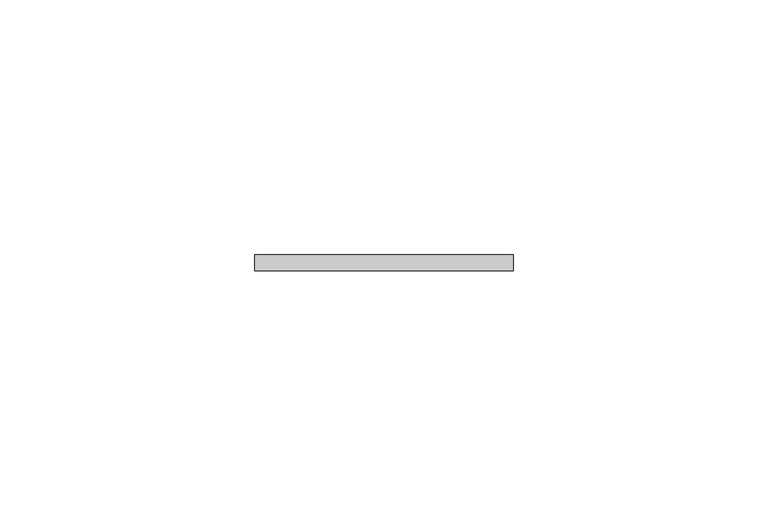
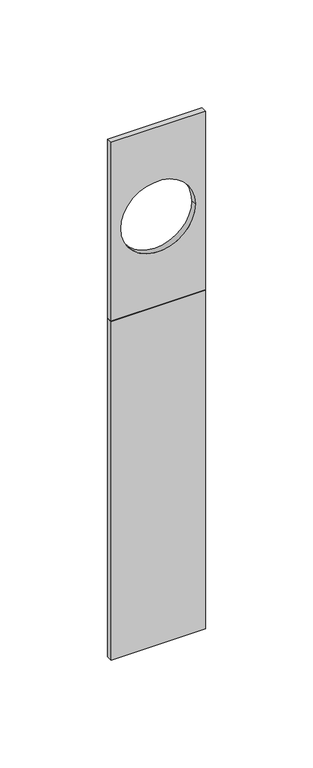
"""IFC4 building model written with IfcOpenShell, lengths in millimetres: proxy geometry, Accessory-Wiremold-Receptacle_Cover : 30TP-J."""

from ifc_helpers import new_model, si_unit, point, frame, frame_2d, origin, place, context, project, spatial, polyline, circle_curve, trimmed, segment, composite_curve, outline, extrude, source, transform, mapped, element, save


def electrical_fixtures_fe14b728(model_context):
    return source(origin(), model_context, "Body", "SweptSolid", [
        extrude(outline(polyline([(25.4, -1.5875), (-25.4, -1.5875), (-25.4, 1.5875), (25.4, 1.5875), (25.4, -1.5875)])), frame((0.0, 0.0, 25.4), z_axis=(0.0, 0.0, 1.0), x_axis=(1.0, 0.0, 0.0)), (0.0, 0.0, 1.0), 192.0875),
        extrude(outline(polyline([(319.0875, 25.4), (319.0875, -25.4), (217.4875, -25.4), (217.4875, 25.4), (319.0875, 25.4)]), holes=[composite_curve([segment(trimmed(circle_curve(frame_2d((268.2875, 0.0)), 20.0), [point((268.2875, -20.0))], [point((268.2875, 20.0))], True, "CARTESIAN"), True, "CONTINUOUS"), segment(trimmed(circle_curve(frame_2d((268.2875, 0.0)), 20.0), [point((268.2875, 20.0))], [point((268.2875, -20.0))], True, "CARTESIAN"), True, "CONTINUOUS")], self_intersect=False)]), frame((0.0, -1.5875, 0.0), z_axis=(0.0, 1.0, 0.0), x_axis=(0.0, 0.0, 1.0)), (0.0, 0.0, 1.0), 3.175),
    ])


if __name__ == "__main__":
    model = new_model("IFC4")
    model_context = context("Model", 3, world=origin())
    ifc_project = project(units=[si_unit("LENGTHUNIT", "METRE", prefix="MILLI")], contexts=[model_context])
    site = spatial("IfcSite", under=ifc_project)
    building = spatial("IfcBuilding", under=site)
    placement = place(None, origin())
    electrical_fixtures_shape = electrical_fixtures_fe14b728(model_context)
    element("IfcBuildingElementProxy", 1, Name="Accessory-Wiremold-Receptacle_Cover : 30TP-J", ObjectType="Accessory-Wiremold-Receptacle_Cover : 30TP-J", at=placement, inside=building, context=model_context, shape_type="MappedRepresentation", body=[
        mapped(electrical_fixtures_shape, transform((0.0, 0.0, 0.0), x_axis=(1.0, 0.0, 0.0), y_axis=(0.0, 1.0, 0.0), z_axis=(0.0, 0.0, 1.0))),
    ])
    save(model, "model.ifc")
